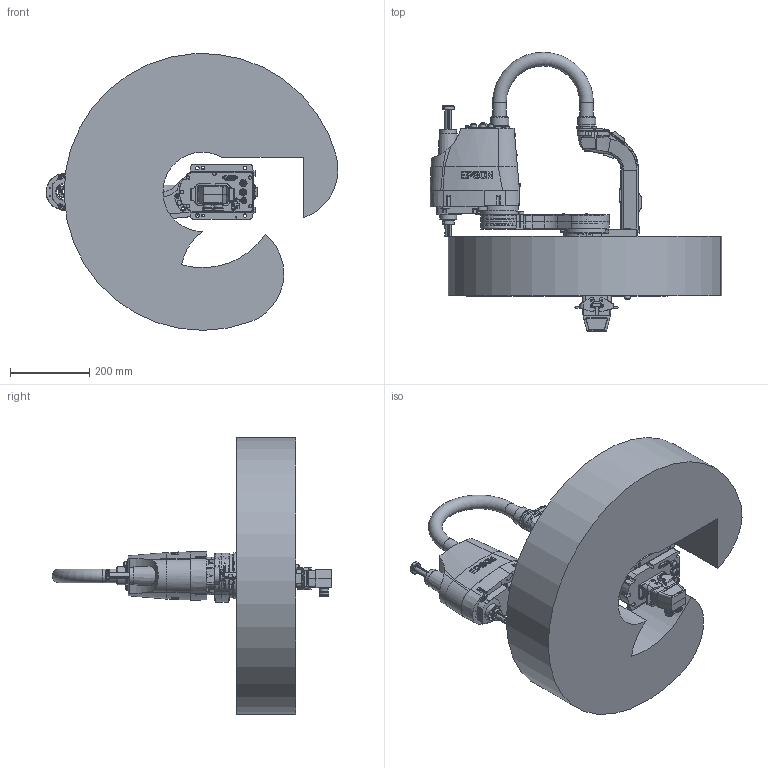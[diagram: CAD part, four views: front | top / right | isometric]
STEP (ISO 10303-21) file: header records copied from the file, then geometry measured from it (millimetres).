
FILE_DESCRIPTION( ( 'STEP AP214' ), '1' );
FILE_NAME( 'C:/Users/9607552/Desktop/GX4-A/GX4-A351SB-R-AW.stp', '2023-04-07T04:54:29', ( '' ), ( '' ), ' ', 'PARTsolutions', ' ' );
FILE_SCHEMA( ( 'AUTOMOTIVE_DESIGN { 1 0 10303 214 1 1 1 1 }' ) );
Length unit declared in the file: millimetre
Products named in the file (8): GX4-A351SB-R-AW; _A251SBbasesb; _A351S-R_J1_ARM; _A251S-a; _A351S_CONDUIT; _A251S; _Angle; _GX4-33_WS
Assembly tree (7 placements, depth 2):
  GX4-A351SB-R-AW
    _A251SBbasesb
    _A351S-R_J1_ARM
    _A251S-a
    _A351S_CONDUIT
    _A251S
    _Angle
    _GX4-33_WS
Bounding box: 737.83 x 706.33 x 699.31 mm (x, y, z)
Volume: 51403493.3 mm3; surface area: 1807467.5 mm2
Topology: 7 solids, 7 shells, 3931 faces, 9694 edges, 6325 vertices
Faces by surface type: plane 2315, cylinder 1140, cone 301, torus 88, bspline 86, sphere 1
Full cylindrical faces by diameter (mm): 1 x30, 1.13 x55, 1.18 x55, 2.459 x4, 2.5 x17, 3 x36, 3.2 x4, 3.242 x1, 3.3 x44, 3.4 x32, 3.5 x12, 4 x2, 4.5 x24, 4.8 x4, 4.917 x2, 5 x1, 5.34 x8, 5.4 x14, 5.5 x26, 5.6 x2, 5.68 x4, 5.9 x4, 5.999 x8, 6 x9, 6.7 x4, 6.8 x7, 6.98 x4, 7 x37, 7.1 x4, 7.8 x4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
Entity records: 148517 total; most frequent: CARTESIAN_POINT 28346, ORIENTED_EDGE 17602, DIRECTION 17597, EDGE_CURVE 8801, AXIS2_PLACEMENT_3D 6629, VERTEX_POINT 6239, EDGE_LOOP 5344, FACE_OUTER_BOUND 4563
